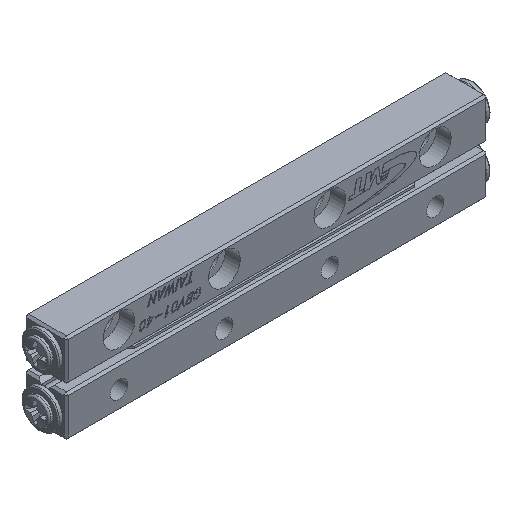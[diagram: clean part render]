
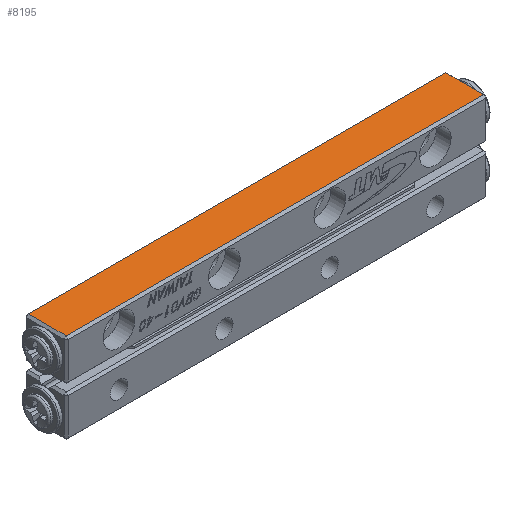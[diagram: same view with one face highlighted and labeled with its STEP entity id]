
A CAD part, isometric view. The second image highlights one B-rep face of the part: STEP entity #8195.
In plain terms, the highlighted planar face has unit normal (0, 0, 1) as drawn and (0, 0, -1) by its records, which use the part's own axes.
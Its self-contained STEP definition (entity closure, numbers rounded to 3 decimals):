
#1182 = LINE ( 'NONE', #16685, #4626 ) ;
#1215 = AXIS2_PLACEMENT_3D ( 'NONE', #8109, #16992, #5587 ) ;
#1437 = DIRECTION ( 'NONE',  ( 0., -1., 0. ) ) ;
#1447 = DIRECTION ( 'NONE',  ( -1., 0., 0. ) ) ;
#2451 = FACE_OUTER_BOUND ( 'NONE', #17407, .T. ) ;
#2479 = LINE ( 'NONE', #13693, #16865 ) ;
#3676 = DIRECTION ( 'NONE',  ( 0., 1., 0. ) ) ;
#3972 = VERTEX_POINT ( 'NONE', #11120 ) ;
#4055 = EDGE_CURVE ( 'NONE', #7453, #3972, #8244, .T. ) ;
#4626 = VECTOR ( 'NONE', #14915, 1000. ) ;
#5587 = DIRECTION ( 'NONE',  ( 0., 1., 0. ) ) ;
#7307 = VERTEX_POINT ( 'NONE', #10375 ) ;
#7453 = VERTEX_POINT ( 'NONE', #17885 ) ;
#8109 = CARTESIAN_POINT ( 'NONE',  ( -20., -2., 0. ) ) ;
#8195 = ADVANCED_FACE ( 'NONE', ( #2451 ), #9855, .T. ) ;
#8244 = LINE ( 'NONE', #11204, #14076 ) ;
#8540 = EDGE_CURVE ( 'NONE', #7307, #14283, #1182, .T. ) ;
#9348 = ORIENTED_EDGE ( 'NONE', *, *, #4055, .T. ) ;
#9762 = ORIENTED_EDGE ( 'NONE', *, *, #8540, .T. ) ;
#9855 = PLANE ( 'NONE',  #1215 ) ;
#10375 = CARTESIAN_POINT ( 'NONE',  ( -19.8, 1.8, 0. ) ) ;
#10719 = VECTOR ( 'NONE', #1437, 1000. ) ;
#11113 = LINE ( 'NONE', #13974, #10719 ) ;
#11120 = CARTESIAN_POINT ( 'NONE',  ( -19.8, -1.8, 0. ) ) ;
#11204 = CARTESIAN_POINT ( 'NONE',  ( -20., -1.8, 0. ) ) ;
#12010 = CARTESIAN_POINT ( 'NONE',  ( 19.8, 1.8, 0. ) ) ;
#13163 = EDGE_CURVE ( 'NONE', #14283, #7453, #11113, .T. ) ;
#13693 = CARTESIAN_POINT ( 'NONE',  ( -19.8, 2., 0. ) ) ;
#13790 = ORIENTED_EDGE ( 'NONE', *, *, #13163, .T. ) ;
#13974 = CARTESIAN_POINT ( 'NONE',  ( 19.8, -2., 0. ) ) ;
#14076 = VECTOR ( 'NONE', #1447, 1000. ) ;
#14283 = VERTEX_POINT ( 'NONE', #12010 ) ;
#14915 = DIRECTION ( 'NONE',  ( 1., 0., 0. ) ) ;
#15257 = EDGE_CURVE ( 'NONE', #3972, #7307, #2479, .T. ) ;
#16685 = CARTESIAN_POINT ( 'NONE',  ( -20., 1.8, 0. ) ) ;
#16865 = VECTOR ( 'NONE', #3676, 1000. ) ;
#16992 = DIRECTION ( 'NONE',  ( 0., 0., -1. ) ) ;
#17245 = ORIENTED_EDGE ( 'NONE', *, *, #15257, .T. ) ;
#17407 = EDGE_LOOP ( 'NONE', ( #9762, #13790, #9348, #17245 ) ) ;
#17885 = CARTESIAN_POINT ( 'NONE',  ( 19.8, -1.8, 0. ) ) ;
